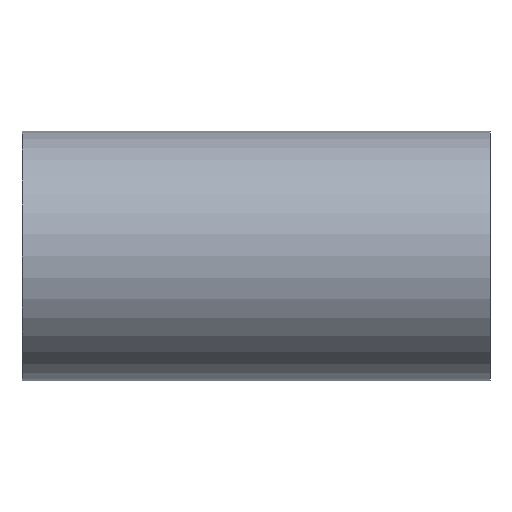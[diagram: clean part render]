
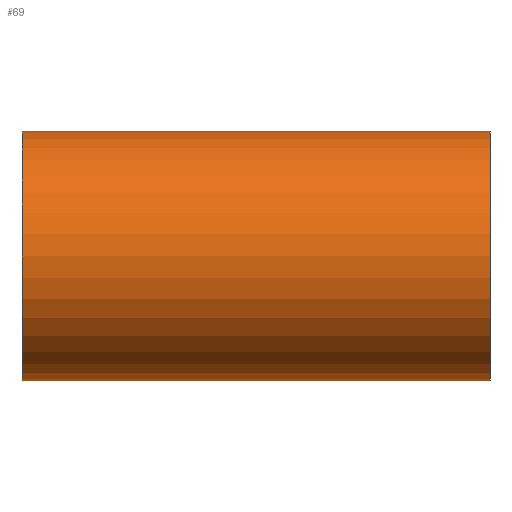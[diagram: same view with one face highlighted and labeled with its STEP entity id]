
A CAD part, front view. The second image highlights one B-rep face of the part: STEP entity #69.
In plain terms, the highlighted cylindrical face has radius 76.2 mm (diameter 152.4 mm), a partial arc.
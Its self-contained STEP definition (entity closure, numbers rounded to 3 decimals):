
#20 = CARTESIAN_POINT ( 'NONE',  ( -142.9, 0., 0. ) ) ;
#21 = VECTOR ( 'NONE', #347, 1000. ) ;
#61 = EDGE_LOOP ( 'NONE', ( #577, #235, #134, #193 ) ) ;
#62 = CARTESIAN_POINT ( 'NONE',  ( -142.9, 0., 76.2 ) ) ;
#64 = VERTEX_POINT ( 'NONE', #62 ) ;
#69 = ADVANCED_FACE ( 'NONE', ( #365 ), #495, .T. ) ;
#78 = DIRECTION ( 'NONE',  ( 0., 0., -1. ) ) ;
#85 = EDGE_CURVE ( 'NONE', #152, #186, #505, .T. ) ;
#96 = AXIS2_PLACEMENT_3D ( 'NONE', #107, #163, #153 ) ;
#103 = CARTESIAN_POINT ( 'NONE',  ( -142.9, 0., 76.2 ) ) ;
#107 = CARTESIAN_POINT ( 'NONE',  ( 142.9, 0., 0. ) ) ;
#134 = ORIENTED_EDGE ( 'NONE', *, *, #241, .T. ) ;
#142 = CIRCLE ( 'NONE', #600, 76.2 ) ;
#152 = VERTEX_POINT ( 'NONE', #248 ) ;
#153 = DIRECTION ( 'NONE',  ( 0., 0., -1. ) ) ;
#163 = DIRECTION ( 'NONE',  ( -1., 0., 0. ) ) ;
#186 = VERTEX_POINT ( 'NONE', #453 ) ;
#193 = ORIENTED_EDGE ( 'NONE', *, *, #85, .T. ) ;
#231 = VERTEX_POINT ( 'NONE', #478 ) ;
#235 = ORIENTED_EDGE ( 'NONE', *, *, #425, .T. ) ;
#241 = EDGE_CURVE ( 'NONE', #231, #152, #436, .T. ) ;
#248 = CARTESIAN_POINT ( 'NONE',  ( 142.9, 0., -76.2 ) ) ;
#263 = DIRECTION ( 'NONE',  ( 1., 0., 0. ) ) ;
#269 = DIRECTION ( 'NONE',  ( 0., 0., -1. ) ) ;
#326 = AXIS2_PLACEMENT_3D ( 'NONE', #20, #338, #78 ) ;
#328 = CARTESIAN_POINT ( 'NONE',  ( -142.9, 0., 0. ) ) ;
#338 = DIRECTION ( 'NONE',  ( 1., 0., 0. ) ) ;
#347 = DIRECTION ( 'NONE',  ( 1., 0., 0. ) ) ;
#365 = FACE_OUTER_BOUND ( 'NONE', #61, .T. ) ;
#425 = EDGE_CURVE ( 'NONE', #64, #231, #142, .T. ) ;
#436 = LINE ( 'NONE', #584, #21 ) ;
#453 = CARTESIAN_POINT ( 'NONE',  ( 142.9, 0., 76.2 ) ) ;
#455 = VECTOR ( 'NONE', #504, 1000. ) ;
#478 = CARTESIAN_POINT ( 'NONE',  ( -142.9, 0., -76.2 ) ) ;
#487 = EDGE_CURVE ( 'NONE', #64, #186, #543, .T. ) ;
#495 = CYLINDRICAL_SURFACE ( 'NONE', #326, 76.2 ) ;
#504 = DIRECTION ( 'NONE',  ( 1., 0., 0. ) ) ;
#505 = CIRCLE ( 'NONE', #96, 76.2 ) ;
#543 = LINE ( 'NONE', #103, #455 ) ;
#577 = ORIENTED_EDGE ( 'NONE', *, *, #487, .F. ) ;
#584 = CARTESIAN_POINT ( 'NONE',  ( -142.9, 0., -76.2 ) ) ;
#600 = AXIS2_PLACEMENT_3D ( 'NONE', #328, #263, #269 ) ;
